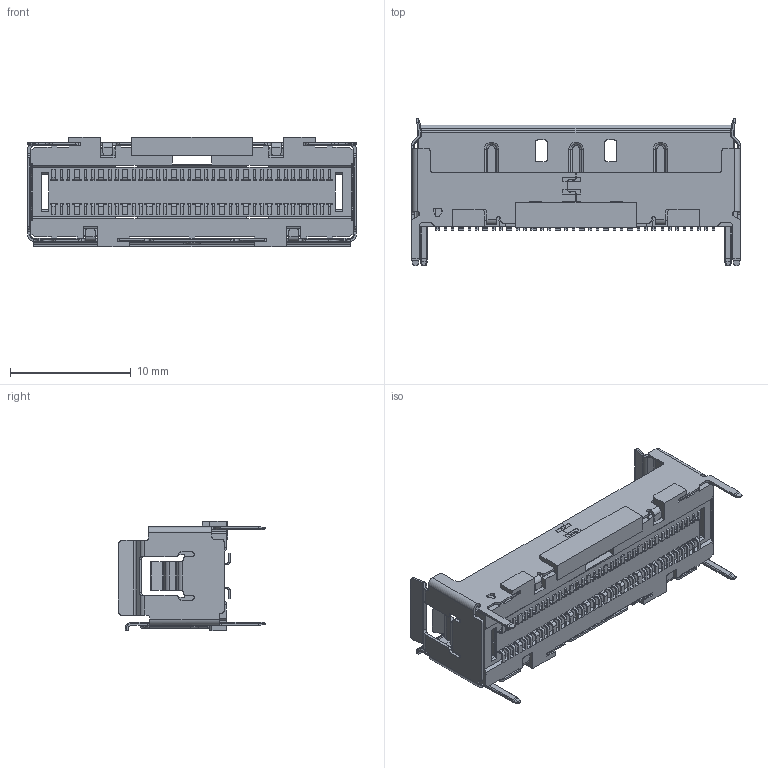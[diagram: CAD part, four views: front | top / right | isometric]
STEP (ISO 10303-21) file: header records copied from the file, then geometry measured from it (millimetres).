
FILE_DESCRIPTION((''),'2;1');
FILE_NAME('00-NEARSTACK_72PIN_AS_SW0001','2026-01-07T14:14:56',('12824382'),(''),'CREO PARAMETRIC BY PTC INC, 2019471','CREO PARAMETRIC BY PTC INC, 2019471','');
FILE_SCHEMA(('CONFIG_CONTROL_DESIGN'));
Products named in the file (1): 00-NEARSTACK_72PIN_AS_SW0001
Bounding box: 27.2 x 12.23 x 9.09 mm (x, y, z)
Volume: 539.8 mm3; surface area: 2103.3 mm2
Topology: 1 solids, 1 shells, 2877 faces, 8459 edges, 5556 vertices
Faces by surface type: plane 1924, cylinder 853, cone 50, bspline 26, torus 24
Entity records: 96878 total; most frequent: CARTESIAN_POINT 18810, ORIENTED_EDGE 16918, DIRECTION 15813, EDGE_CURVE 8459, VECTOR 6469, LINE 6469, VERTEX_POINT 5556, AXIS2_PLACEMENT_3D 4672
